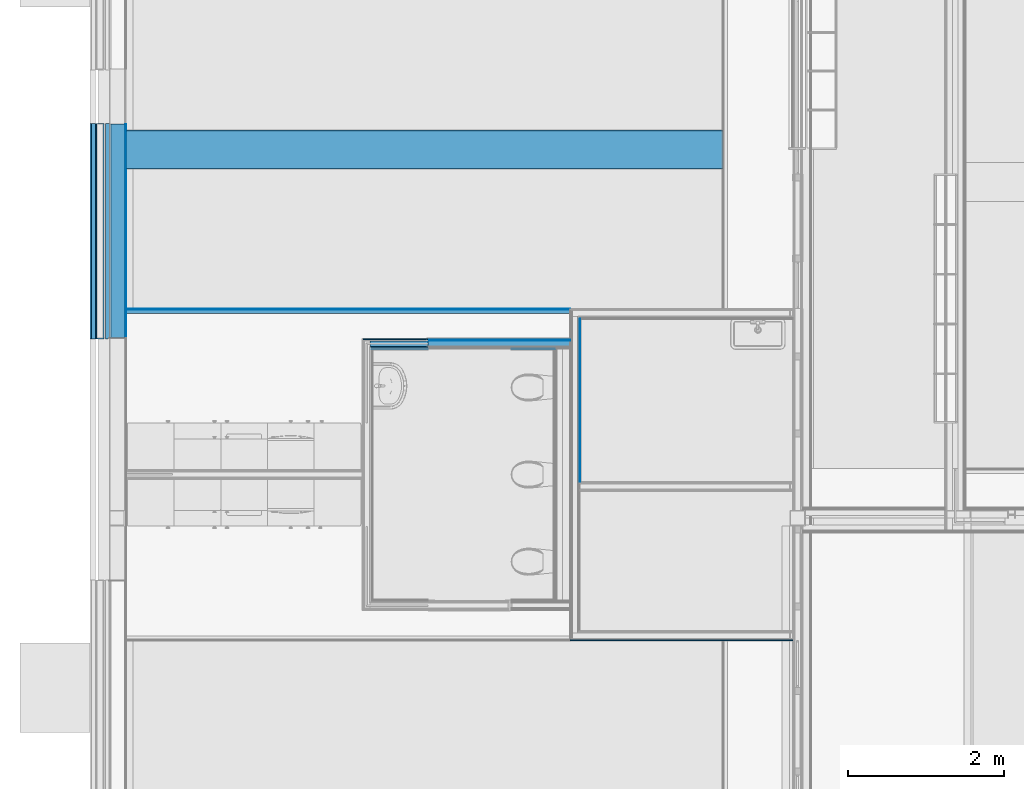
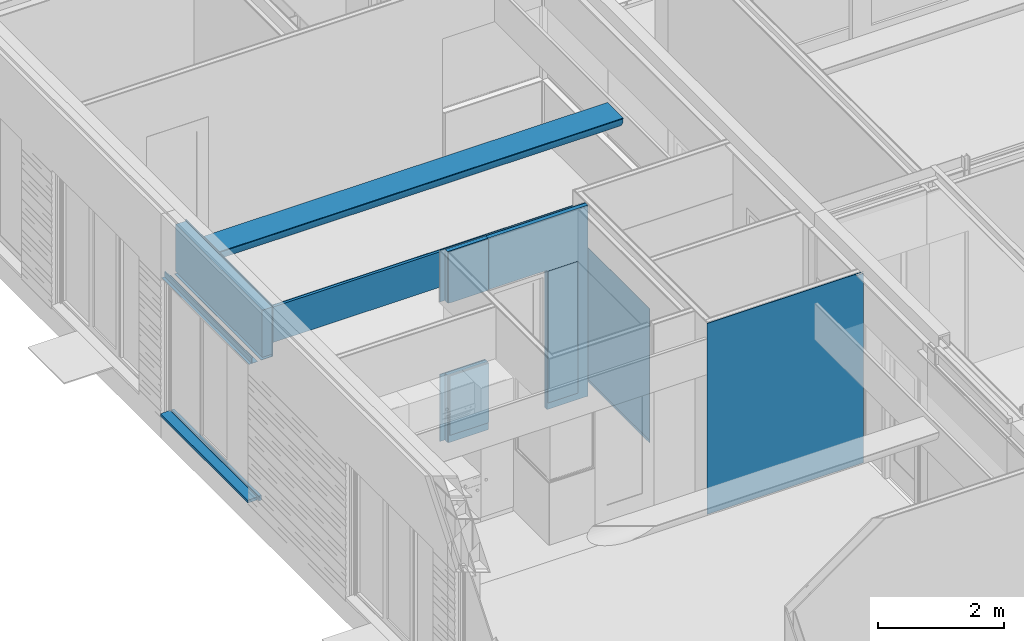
# One storey, part 55 of 165: 21 building element parts, 2 openings, 11 elements without a shape of their own.
"""IFC2X3 building model written with IfcOpenShell, lengths in millimetres."""

import ifcopenshell
import ifcopenshell.guid

model = None  # the IFC model being written
_history = None  # IfcOwnerHistory: only IFC2X3 demands one
_inside = {}  # id of a spatial element -> (the spatial element, [elements in it])
_under = {}  # id of a project, library or spatial element -> (it, [spatial elements below it])
_declared = {}  # id of a project -> (the project, [libraries it declares])
_typed = {}  # id of a type object -> (the type object, [elements of that type])
_made_of = {}  # id of a material, layer set ... -> (it, [elements and type objects made of it])


def new_model(schema):
    """Start an empty IFC model of exactly this schema.

    Asked for "IFC4X3", IfcOpenShell would pick the latest addendum, in which some entities
    have other attributes; the version numbers below select the first issue.
    IFC2X3 requires an IfcOwnerHistory on every rooted entity: one is made here for all.
    """
    global model, _history
    if schema == "IFC4X3":
        model = ifcopenshell.file(schema_version=(4, 3, 0, 0))
    else:
        model = ifcopenshell.file(schema=schema)
    _inside.clear()
    _under.clear()
    _declared.clear()
    _typed.clear()
    _made_of.clear()
    _history = None
    if model.schema == "IFC2X3":
        org = make("IfcOrganization", Name="unknown")
        user = make(
            "IfcPersonAndOrganization",
            ThePerson=make("IfcPerson", FamilyName="unknown"),
            TheOrganization=org,
        )
        app = make(
            "IfcApplication",
            ApplicationDeveloper=org,
            Version="unknown",
            ApplicationFullName="unknown",
            ApplicationIdentifier="unknown",
        )
        _history = make(
            "IfcOwnerHistory",
            OwningUser=user,
            OwningApplication=app,
            ChangeAction="ADDED",
            CreationDate=0,
        )
    return model


def make(cls, **values):
    """One entity of the class cls with the attributes given. An attribute that is None is left unset."""
    return model.create_entity(
        cls, **{name: value for name, value in values.items() if value is not None}
    )


def entity(cls, *values):
    """Any entity or typed value of the class cls, its attributes in the order of the schema. None: left unset."""
    e = model.create_entity(cls)
    for i, value in enumerate(values):
        if value is not None:
            e[i] = value
    return e


def rooted(cls, **values):
    """An entity with a GlobalId (a new one), such as an element, a storey or a relation."""
    return make(cls, GlobalId=ifcopenshell.guid.new(), OwnerHistory=_history, **values)


def si_unit(unit_type, name, prefix=None):
    """IfcSIUnit, for example si_unit("LENGTHUNIT", "METRE", prefix="MILLI")."""
    return make("IfcSIUnit", UnitType=unit_type, Prefix=prefix, Name=name)


def converted_unit(unit_type, name, factor, base, dimensions=None, offset=None):
    """IfcConversionBasedUnit, such as the inch: factor (a typed value) times the base unit."""
    return make(
        "IfcConversionBasedUnit"
        if offset is None
        else "IfcConversionBasedUnitWithOffset",
        ConversionOffset=offset,
        Dimensions=None
        if dimensions is None
        else entity("IfcDimensionalExponents", *dimensions),
        UnitType=unit_type,
        Name=name,
        ConversionFactor=make(
            "IfcMeasureWithUnit", ValueComponent=factor, UnitComponent=base
        ),
    )


def derived_unit(unit_type, elements):
    """IfcDerivedUnit: a product of units, each with its exponent."""
    return make(
        "IfcDerivedUnit",
        Elements=[
            make("IfcDerivedUnitElement", Unit=unit, Exponent=power)
            for unit, power in elements
        ],
        UnitType=unit_type,
    )


def money_unit(currency):
    """IfcMonetaryUnit."""
    return make("IfcMonetaryUnit", Currency=currency)


def assignment(units):
    """IfcUnitAssignment: the units of a project."""
    return None if units is None else make("IfcUnitAssignment", Units=units)


def point(xyz):
    """IfcCartesianPoint."""
    return None if xyz is None else make("IfcCartesianPoint", Coordinates=xyz)


def direction(xyz):
    """IfcDirection."""
    return None if xyz is None else make("IfcDirection", DirectionRatios=xyz)


def frame(location, z_axis=None, x_axis=None):
    """IfcAxis2Placement3D, a coordinate frame: its origin and axes. An axis left out is left unset."""
    return make(
        "IfcAxis2Placement3D",
        Location=point(location),
        Axis=direction(z_axis),
        RefDirection=direction(x_axis),
    )


def origin_with_axes():
    """The frame at (0, 0, 0) with the z axis (0, 0, 1) and the x axis (1, 0, 0) written out."""
    return frame((0.0, 0.0, 0.0), z_axis=(0.0, 0.0, 1.0), x_axis=(1.0, 0.0, 0.0))


def place(relative_to, where):
    """IfcLocalPlacement: puts the frame where relative to a parent placement (None: the world)."""
    return make(
        "IfcLocalPlacement", PlacementRelTo=relative_to, RelativePlacement=where
    )


def context(
    kind, dimensions, precision=None, world=None, true_north=None, identifier=None
):
    """IfcGeometricRepresentationContext, for example the 3D "Model" context."""
    return make(
        "IfcGeometricRepresentationContext",
        ContextIdentifier=identifier,
        ContextType=kind,
        CoordinateSpaceDimension=dimensions,
        Precision=precision,
        WorldCoordinateSystem=world,
        TrueNorth=true_north,
    )


def subcontext(parent, identifier, kind, view, scale=None):
    """IfcGeometricRepresentationSubContext, for example "Body" below "Model"."""
    return make(
        "IfcGeometricRepresentationSubContext",
        ContextIdentifier=identifier,
        ContextType=kind,
        ParentContext=parent,
        TargetScale=scale,
        TargetView=view,
    )


def project(units=None, contexts=None):
    """IfcProject with its units and contexts."""
    return rooted(
        "IfcProject",
        Name="project",
        RepresentationContexts=contexts,
        UnitsInContext=assignment(units),
    )


def spatial(cls, under=None, at=None, **own):
    """A site, building, storey or space (cls), placed at a placement, below another one or the project."""
    s = rooted(cls, ObjectPlacement=at, **own)
    if under is not None:
        _under.setdefault(under.id(), (under, []))[1].append(s)
    return s


def faces_of(points, faces, orient=None, outer=None):
    """IfcFace entities. A face is a list of loops; a loop is a list of indices into points, from 0.

    orient and outer hold one flag for each loop. By default every Orientation is true, the
    first loop of a face is its IfcFaceOuterBound and the others are IfcFaceBound.
    """
    made = []
    for i, loops in enumerate(faces):
        bounds = []
        for j, loop in enumerate(loops):
            is_outer = j == 0 if outer is None else outer[i][j]
            bounds.append(
                make(
                    "IfcFaceOuterBound" if is_outer else "IfcFaceBound",
                    Bound=make("IfcPolyLoop", Polygon=[points[k] for k in loop]),
                    Orientation=True if orient is None else orient[i][j],
                )
            )
        made.append(make("IfcFace", Bounds=bounds))
    return made


def faceted_brep(points, faces, orient=None, outer=None, voids=None):
    """IfcFacetedBrep: a solid bounded by flat faces; with voids (closed shells), ...WithVoids."""
    shared = [point(p) for p in points]
    hull = make("IfcClosedShell", CfsFaces=faces_of(shared, faces, orient, outer))
    if voids is None:
        return make("IfcFacetedBrep", Outer=hull)
    return make(
        "IfcFacetedBrepWithVoids",
        Outer=hull,
        Voids=[
            make(cls, CfsFaces=faces_of(shared, fs, o, b)) for cls, fs, o, b in voids
        ],
    )


def shape(context_of_items, identifier, shape_type, items):
    """IfcShapeRepresentation: the items that make up one representation, for example the "Body"."""
    return make(
        "IfcShapeRepresentation",
        ContextOfItems=context_of_items,
        RepresentationIdentifier=identifier,
        RepresentationType=shape_type,
        Items=items,
    )


def material(Name=None, Category=None):
    """IfcMaterial."""
    return make("IfcMaterial", Name=Name, Category=Category)


def made_of(thing, what):
    """Note that an element or type object is made of a material, layer set ...; save() writes the relation."""
    if what is not None:
        _made_of.setdefault(what.id(), (what, []))[1].append(thing)
    return thing


def type_object(cls, material=None, **own):
    """A type object (cls), such as IfcWallType, which elements share."""
    return made_of(rooted(cls, **own), material)


def element(
    cls,
    number,
    at=None,
    inside=None,
    cuts=None,
    type_object=None,
    material=None,
    context=None,
    identifier="Body",
    shape_type=None,
    held_by="IfcProductDefinitionShape",
    body=None,
    shapes=None,
    **own,
):
    """One element of the class cls, such as IfcWall. Its Tag is "e" and its number.

    at: its placement. inside: the storey or other place that contains it. cuts: it is an
    opening in that element (IfcRelVoidsElement). A single representation is given by context,
    identifier, shape_type and body (its items); several are given by shapes. held_by: the class
    of the entity that holds the representations. save() writes the other relations.
    """
    e = rooted(cls, Tag="e%d" % number, ObjectPlacement=at, **own)
    if body is not None:
        shapes = [shape(context, identifier, shape_type, body)]
    if shapes is not None:
        e.Representation = make(held_by, Representations=shapes)
    if inside is not None:
        _inside.setdefault(inside.id(), (inside, []))[1].append(e)
    if cuts is not None:
        rooted(
            "IfcRelVoidsElement", RelatingBuildingElement=cuts, RelatedOpeningElement=e
        )
    if type_object is not None:
        _typed.setdefault(type_object.id(), (type_object, []))[1].append(e)
    return made_of(e, material)


def aggregate(whole, parts):
    """IfcRelAggregates: a whole, such as a stair, and the parts it consists of."""
    return rooted("IfcRelAggregates", RelatingObject=whole, RelatedObjects=parts)


def save(model, path):
    """Write the relations noted so far, then the file.

    IfcRelAggregates (storeys below a building ...), IfcRelContainedInSpatialStructure (elements
    in a storey), IfcRelDefinesByType, IfcRelAssociatesMaterial and IfcRelDeclares: one each for
    every whole, place, type object, material and project.
    """
    for whole, parts in _under.values():
        aggregate(whole, parts)
    for where, things in _inside.values():
        rooted(
            "IfcRelContainedInSpatialStructure",
            RelatedElements=things,
            RelatingStructure=where,
        )
    for kind, things in _typed.values():
        rooted("IfcRelDefinesByType", RelatedObjects=things, RelatingType=kind)
    for what, things in _made_of.values():
        rooted("IfcRelAssociatesMaterial", RelatedObjects=things, RelatingMaterial=what)
    for by, libraries in _declared.values():
        rooted("IfcRelDeclares", RelatingContext=by, RelatedDefinitions=libraries)
    model.write(path)


model = new_model("IFC2X3")

# Units and contexts
model_context = context("Model", 3, precision=0.01, world=origin_with_axes(), true_north=direction((0.0, 1.0)))
body_context = subcontext(model_context, "Body", "Model", "MODEL_VIEW")
ifc_project = project(units=[si_unit("LENGTHUNIT", "METRE", prefix="MILLI"), si_unit("AREAUNIT", "SQUARE_METRE"), si_unit("VOLUMEUNIT", "CUBIC_METRE"), converted_unit("PLANEANGLEUNIT", "DEGREE", entity("IfcPlaneAngleMeasure", 0.0174532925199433), si_unit("PLANEANGLEUNIT", "RADIAN"), dimensions=[0, 0, 0, 0, 0, 0, 0]), money_unit("EUR"), converted_unit("TIMEUNIT", "Year", entity("IfcTimeMeasure", 31556926.0), si_unit("TIMEUNIT", "SECOND"), dimensions=[0, 0, 1, 0, 0, 0, 0]), si_unit("MASSUNIT", "GRAM", prefix="KILO"), si_unit("THERMODYNAMICTEMPERATUREUNIT", "DEGREE_CELSIUS"), si_unit("LUMINOUSINTENSITYUNIT", "LUMEN"), si_unit("ENERGYUNIT", "JOULE", prefix="MEGA"), derived_unit("THERMALCONDUCTANCEUNIT", [(si_unit("POWERUNIT", "WATT"), 1), (si_unit("LENGTHUNIT", "METRE"), -1), (si_unit("THERMODYNAMICTEMPERATUREUNIT", "KELVIN"), -1)]), derived_unit("SPECIFICHEATCAPACITYUNIT", [(si_unit("ENERGYUNIT", "JOULE"), 1), (si_unit("MASSUNIT", "GRAM", prefix="KILO"), -1), (si_unit("THERMODYNAMICTEMPERATUREUNIT", "KELVIN"), -1)]), derived_unit("MASSDENSITYUNIT", [(si_unit("MASSUNIT", "GRAM", prefix="KILO"), 1), (si_unit("VOLUMEUNIT", "CUBIC_METRE"), -1)])], contexts=[model_context])

# Site, building, storey
site_placement = place(None, origin_with_axes())
site = spatial("IfcSite", under=ifc_project, at=site_placement, Name="Site", CompositionType="ELEMENT")
building_placement = place(site_placement, origin_with_axes())
building = spatial("IfcBuilding", under=site, at=building_placement, Name="Naam gebouw", CompositionType="ELEMENT")
storey_placement = place(building_placement, origin_with_axes())
storey = spatial("IfcBuildingStorey", under=building, at=storey_placement, Name="Begane grond", CompositionType="ELEMENT", Elevation=0.0)

# Proxy, building element part
building_element_proxy_type_1 = type_object("IfcBuildingElementProxyType", Name="22 Metal stud 125 gips 125", PredefinedType="NOTDEFINED")
proxy_1_placement = place(storey_placement, frame((8850.000000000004, 9235.000198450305, -100.0), z_axis=(0.0, 0.0, 1.0), x_axis=(-0.9999999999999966, -8.284042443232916e-08, 0.0)))
proxy_1 = element("IfcBuildingElementProxy", 1, at=proxy_1_placement, inside=storey, type_object=building_element_proxy_type_1, Name="_Wand-x")
ifc_material_1 = material(Name="Gipsplaat")
building_element_part_1_placement = place(proxy_1_placement, origin_with_axes())
building_element_part_1 = element("IfcBuildingElementPart", 2, at=building_element_part_1_placement, material=ifc_material_1, Name="Gipsplaat", context=body_context, shape_type="Brep", body=[
    faceted_brep([(199.9999989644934, -12.50001656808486, 3695.0), (199.9999989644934, -12.50001656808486, 3670.0), (62.4999989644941, -12.50000517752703, 3670.0), (62.4999989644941, -12.50000517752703, 0.0), (2925.000401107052, -12.50024230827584, 0.0), (2925.000401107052, -12.50024230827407, 3700.0), (102.9999989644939, -12.50000853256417, 3700.0), (102.9999989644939, -12.50000853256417, 3695.0), (199.9999999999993, -1.656808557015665e-05, 3695.0), (199.9999999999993, -1.656808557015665e-05, 3670.0), (62.5, -5.177527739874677e-06, 3670.0), (62.5, -5.177527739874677e-06, 0.0), (2925.000402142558, -0.0002423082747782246, 0.0), (2925.000402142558, -0.0002423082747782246, 3700.0), (102.9999999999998, -8.532564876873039e-06, 3700.0), (102.9999999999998, -8.532564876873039e-06, 3695.0)], [[[0, 1, 2, 3, 4, 5, 6, 7]], [[1, 0, 8, 9]], [[10, 2, 1, 9]], [[2, 10, 11, 3]], [[12, 4, 3, 11]], [[13, 5, 4, 12]], [[14, 6, 5, 13]], [[7, 6, 14, 15]], [[0, 7, 15, 8]], [[15, 14, 13, 12, 11, 10, 9, 8]]]),
    faceted_brep([(62.5, -5.177527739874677e-06, 3695.0), (62.4999989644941, -12.50000517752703, 3695.0), (62.4999989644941, -12.50000517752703, 3700.0), (62.5, -5.177527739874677e-06, 3700.0), (94.99999896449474, -12.50000786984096, 3695.0), (95.00000000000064, -7.869841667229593e-06, 3695.0), (94.99999896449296, -12.50000786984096, 3700.0), (94.99999999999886, -7.869841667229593e-06, 3700.0)], [[[0, 1, 2, 3]], [[4, 1, 0, 5]], [[4, 6, 2, 1]], [[6, 7, 3, 2]], [[5, 0, 3, 7]], [[7, 6, 4, 5]]]),
])
aggregate(proxy_1, [building_element_part_1])

# Proxy, opening, building element parts
building_element_proxy_type_2 = type_object("IfcBuildingElementProxyType", Name="22 Metal stud 125 oregon pine 125", PredefinedType="NOTDEFINED")
proxy_2_placement = place(storey_placement, frame((5924.999489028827, 13115.00027460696, -100.0), z_axis=(0.0, 0.0, 1.0), x_axis=(-0.9999999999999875, 1.582717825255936e-07, 0.0)))
proxy_2 = element("IfcBuildingElementProxy", 3, at=proxy_2_placement, inside=storey, type_object=building_element_proxy_type_2, Name="_Wand-x")
opening_1_placement = place(proxy_2_placement, frame((1289.999871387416, 0.0, 100.0), z_axis=(0.0, 0.0, 1.0), x_axis=(1.0, 0.0, 0.0)))
element("IfcOpeningElement", 4, at=opening_1_placement, cuts=proxy_2, Name="_01.02", context=body_context, shape_type="Brep", body=[
    faceted_brep([(540.0000000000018, 126.0002896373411, 2600.0), (540.0000000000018, 126.0002896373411, -100.0000000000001), (-539.9999999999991, 126.0002896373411, -100.0000000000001), (-539.9999999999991, 126.0002896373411, 2600.0), (540.0000000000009, -1.000289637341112, 2600.0), (540.0000000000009, -1.000289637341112, -100.0000000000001), (-539.9999999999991, -1.000289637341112, -100.0000000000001), (-539.9999999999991, -1.000289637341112, 2600.0)], [[[0, 1, 2, 3]], [[4, 5, 1, 0]], [[5, 6, 2, 1]], [[6, 7, 3, 2]], [[7, 4, 0, 3]], [[6, 5, 4, 7]]]),
])
building_element_part_2_placement = place(proxy_2_placement, origin_with_axes())
building_element_part_2 = element("IfcBuildingElementPart", 5, at=building_element_part_2_placement, material=ifc_material_1, Name="Gipsplaat", context=body_context, shape_type="Brep", body=[
    faceted_brep([(749.9998713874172, 12.49999999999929, 2700.0), (1829.999871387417, 12.49999999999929, 2700.0), (1829.999871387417, 12.49999999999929, 3700.0), (-0.0001108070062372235, 12.49999999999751, 3700.0), (-0.0001108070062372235, 12.49999999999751, 0.0), (749.9998713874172, 12.49999999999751, 0.0), (749.9998713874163, 24.99999999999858, 2700.0), (1829.999871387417, 24.99999999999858, 2700.0), (1829.999871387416, 24.99999999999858, 3700.0), (-0.0001127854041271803, 24.9999999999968, 3700.0), (-0.0001127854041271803, 24.9999999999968, 0.0), (749.9998713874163, 24.9999999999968, 0.0)], [[[0, 1, 2, 3, 4, 5]], [[1, 0, 6, 7]], [[1, 7, 8, 2]], [[8, 9, 3, 2]], [[4, 3, 9, 10]], [[11, 5, 4, 10]], [[0, 5, 11, 6]], [[6, 11, 10, 9, 8, 7]]]),
])
ifc_material_2 = material(Name="ALG - LICHTE SCHEIDINGSWAND")
building_element_part_3_placement = place(proxy_2_placement, origin_with_axes())
building_element_part_3 = element("IfcBuildingElementPart", 6, at=building_element_part_3_placement, material=ifc_material_2, Name="ALG - LICHTE SCHEIDINGSWAND", context=body_context, shape_type="Brep", body=[
    faceted_brep([(749.9998713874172, 24.9999999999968, 2700.0), (1829.999871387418, 24.99999999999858, 2700.0), (1829.999871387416, 24.99999999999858, 3700.0), (-0.0001127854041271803, 24.9999999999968, 3700.0), (-0.0001127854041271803, 24.9999999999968, 0.0), (749.9998713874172, 24.9999999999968, 0.0), (749.9998713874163, 99.99999999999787, 2700.0), (1829.999871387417, 99.99999999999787, 2700.0), (1829.999871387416, 99.99999999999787, 3700.0), (-0.0001246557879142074, 99.99999999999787, 3700.0), (-0.0001246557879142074, 99.99999999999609, 0.0), (749.9998713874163, 99.99999999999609, 0.0)], [[[0, 1, 2, 3, 4, 5]], [[1, 0, 6, 7]], [[1, 7, 8, 2]], [[8, 9, 3, 2]], [[4, 3, 9, 10]], [[11, 5, 4, 10]], [[0, 5, 11, 6]], [[6, 11, 10, 9, 8, 7]]]),
])
aggregate(proxy_2, [building_element_part_2, building_element_part_3])

# Beam, building element parts
beam_type_1 = type_object("IfcBeamType", Name="41 Latei/geveldrager 158 x 112", PredefinedType="BEAM")
beam_1_placement = place(storey_placement, frame((-180.0000861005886, 13114.99981122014, 2610.0), z_axis=(0.0, 0.0, 1.0), x_axis=(1.0, 0.0, 0.0)))
beam_1 = element("IfcBeam", 7, at=beam_1_placement, inside=storey, type_object=beam_type_1, Name="_Regenwaterafvoer-x", ObjectType="BEAM")
ifc_material_3 = material(Name="Metaal - Staal C")
building_element_part_4_placement = place(beam_1_placement, origin_with_axes())
building_element_part_4 = element("IfcBuildingElementPart", 8, at=building_element_part_4_placement, material=ifc_material_3, Name="Metaal - Staal C", context=body_context, shape_type="Brep", body=[
    faceted_brep([(3.000000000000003, 2770.0, -3.000000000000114), (108.0, 2770.0, -3.000000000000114), (108.0, 0.0, -3.000000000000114), (3.000000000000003, 0.0, -3.000000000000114), (3.000000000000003, 2770.0, 0.0), (108.0, 2770.0, 0.0), (108.0, 0.0, 0.0), (3.000000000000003, 0.0, 0.0)], [[[0, 1, 2, 3]], [[0, 4, 5, 1]], [[1, 5, 6, 2]], [[3, 2, 6, 7]], [[4, 0, 3, 7]], [[5, 4, 7, 6]]]),
])
building_element_part_5_placement = place(beam_1_placement, origin_with_axes())
building_element_part_5 = element("IfcBuildingElementPart", 9, at=building_element_part_5_placement, material=ifc_material_3, Name="Metaal - Staal C", context=body_context, shape_type="Brep", body=[
    faceted_brep([(-49.99999999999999, 2770.0, 6.55651533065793e-07), (-49.99999999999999, 2770.0, -3.000000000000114), (-49.99999999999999, 0.0, -3.000000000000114), (-49.99999999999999, 0.0, 6.55651533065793e-07), (-5.960468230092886e-08, 2770.0, 6.55651533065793e-07), (-5.960468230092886e-08, 2770.0, 99.3417707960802), (16.54654975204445, 2770.0, 108.894926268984), (18.04655007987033, 2770.0, 106.296849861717), (3.000000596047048, 2770.0, 96.99999988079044), (3.000000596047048, 2770.0, 6.55651533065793e-07), (3.000000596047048, 2770.0, -3.000000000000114), (3.000000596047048, 0.0, -3.000000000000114), (3.000000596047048, 0.0, 6.55651533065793e-07), (3.000000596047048, 0.0, 96.99999988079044), (18.04655007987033, 0.0, 106.296849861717), (16.54654975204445, 0.0, 108.894926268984), (-5.960468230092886e-08, 0.0, 99.3417707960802), (-5.960468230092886e-08, 0.0, 6.55651533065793e-07)], [[[0, 1, 2, 3]], [[0, 4, 5, 6, 7, 8, 9, 10, 1]], [[1, 10, 11, 2]], [[3, 2, 11, 12, 13, 14, 15, 16, 17]], [[4, 0, 3, 17]], [[5, 4, 17, 16]], [[6, 5, 16, 15]], [[7, 6, 15, 14]], [[8, 7, 14, 13]], [[9, 8, 13, 12]], [[10, 9, 12, 11]]]),
])
aggregate(beam_1, [building_element_part_4, building_element_part_5])

beam_type_2 = type_object("IfcBeamType", Name="31 Betondorpel 250 x 90", PredefinedType="BEAM")
beam_2_placement = place(storey_placement, frame((-249.999999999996, 13114.9998112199, -100.0000000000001), z_axis=(0.0, 0.0, 1.0), x_axis=(1.0, 0.0, 0.0)))
beam_2 = element("IfcBeam", 10, at=beam_2_placement, inside=storey, type_object=beam_type_2, Name="_Regenwaterafvoer-x", ObjectType="BEAM")
ifc_material_4 = material(Name="Isolatie - Kunststof hard")
building_element_part_6_placement = place(beam_2_placement, origin_with_axes())
building_element_part_6 = element("IfcBuildingElementPart", 11, at=building_element_part_6_placement, material=ifc_material_4, Name="Isolatie - Kunststof hard", context=body_context, shape_type="Brep", body=[
    faceted_brep([(200.0, 2770.0, 0.0), (250.0, 2770.0, 0.0), (250.0, 0.0, 0.0), (200.0, 0.0, 0.0), (200.0, 2770.0, 30.04212815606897), (200.0, 2770.0, 90.00000000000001), (250.0, 2770.0, 90.00000000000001), (250.0, 0.0, 90.00000000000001), (200.0, 0.0, 90.00000000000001), (200.0, 0.0, 30.04212815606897)], [[[0, 1, 2, 3]], [[0, 4, 5, 6, 1]], [[1, 6, 7, 2]], [[3, 2, 7, 8, 9]], [[4, 0, 3, 9]], [[5, 4, 9, 8]], [[6, 5, 8, 7]]]),
])
ifc_material_5 = material(Name="Beton gewapend prefab")
building_element_part_7_placement = place(beam_2_placement, origin_with_axes())
building_element_part_7 = element("IfcBuildingElementPart", 12, at=building_element_part_7_placement, material=ifc_material_5, Name="Beton gewapend prefab", context=body_context, shape_type="Brep", body=[
    faceted_brep([(0.0, 2770.0, 30.04212834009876), (170.0, 2770.0, 30.04212834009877), (170.0, 0.0, 30.04212834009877), (0.0, 0.0, 30.04212834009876), (0.0, 2770.0, 80.04212834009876), (170.0, 2770.0, 90.04212834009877), (170.0, 2770.0, 90.00000000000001), (170.0, 0.0, 90.00000000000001), (170.0, 0.0, 90.04212834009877), (0.0, 0.0, 80.04212834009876)], [[[0, 1, 2, 3]], [[0, 4, 5, 6, 1]], [[1, 6, 7, 2]], [[3, 2, 7, 8, 9]], [[4, 0, 3, 9]], [[5, 4, 9, 8]], [[6, 5, 8, 7]]]),
])
aggregate(beam_2, [building_element_part_6, building_element_part_7])

# Proxy, building element parts
building_element_proxy_type_3 = type_object("IfcBuildingElementProxyType", Name="22 Metal stud 62.5 plafond 63", PredefinedType="NOTDEFINED")
proxy_3_placement = place(storey_placement, frame((5924.999597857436, 13505.00027460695, 2600.0), z_axis=(0.0, 0.0, 1.0), x_axis=(-1.0, 0.0, 0.0)))
proxy_3 = element("IfcBuildingElementProxy", 13, at=proxy_3_placement, inside=storey, type_object=building_element_proxy_type_3, Name="_Wand-x")
building_element_part_8_placement = place(proxy_3_placement, origin_with_axes())
building_element_part_8 = element("IfcBuildingElementPart", 14, at=building_element_part_8_placement, material=ifc_material_2, Name="ALG - LICHTE SCHEIDINGSWAND", context=body_context, shape_type="Brep", body=[
    faceted_brep([(0.0001335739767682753, 62.49999999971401, 12.00000000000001), (2.671479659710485e-05, 12.49999999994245, 12.00000000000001), (0.0, 12.49999999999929, 699.9999999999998), (0.0, 62.5, 699.9999999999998), (5710.999624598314, 12.49999999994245, 12.00000000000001), (5710.999731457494, 62.49999999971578, 12.00000000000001), (5710.999597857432, 12.49999999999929, 699.9999999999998), (5710.999597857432, 62.5, 699.9999999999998)], [[[0, 1, 2, 3]], [[4, 1, 0, 5]], [[1, 4, 6, 2]], [[2, 6, 7, 3]], [[5, 0, 3, 7]], [[4, 5, 7, 6]]]),
])
building_element_part_9_placement = place(proxy_3_placement, origin_with_axes())
building_element_part_9 = element("IfcBuildingElementPart", 15, at=building_element_part_9_placement, material=ifc_material_1, Name="Gipsplaat", context=body_context, shape_type="Brep", body=[
    faceted_brep([(2.671479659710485e-05, 12.49999999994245, 12.00000000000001), (0.0, 0.0, 12.00000000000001), (0.0, 0.0, 699.9999999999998), (0.0, 12.49999999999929, 699.9999999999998), (5710.99959788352, 0.0, 12.00000000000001), (5710.999624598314, 12.49999999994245, 12.00000000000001), (5710.999597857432, 0.0, 699.9999999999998), (5710.999597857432, 12.49999999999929, 699.9999999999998)], [[[0, 1, 2, 3]], [[4, 1, 0, 5]], [[1, 4, 6, 2]], [[2, 6, 7, 3]], [[5, 0, 3, 7]], [[4, 5, 7, 6]]]),
])
aggregate(proxy_3, [building_element_part_8, building_element_part_9])

# Proxy, building element part
building_element_proxy_type_4 = type_object("IfcBuildingElementProxyType", Name="42 Tegelwerk 2600+ 12 x 2600", PredefinedType="NOTDEFINED")
proxy_4_placement = place(storey_placement, frame((5174.99959469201, 12970.00039331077, 0.0), z_axis=(0.0, 0.0, 1.0), x_axis=(0.9999999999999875, -1.58271783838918e-07, 0.0)))
proxy_4 = element("IfcBuildingElementProxy", 16, at=proxy_4_placement, inside=storey, type_object=building_element_proxy_type_4, Name="_Wand-x")
ifc_material_6 = material(Name="21 STO lijmlaag")
building_element_part_10_placement = place(proxy_4_placement, origin_with_axes())
building_element_part_10 = element("IfcBuildingElementPart", 17, at=building_element_part_10_placement, material=ifc_material_6, Name="21 STO lijmlaag", context=body_context, shape_type="Brep", body=[
    faceted_brep([(549.9840933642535, 13.00000447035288, 2600.0), (549.9840933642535, 19.9999955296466, 2600.0), (0.0, 19.9999955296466, 2600.0), (0.0, 13.00000447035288, 2600.0), (549.9840933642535, 19.9999955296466, 50.00000596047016), (549.9840933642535, 13.00000447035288, 50.00000596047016), (549.9840933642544, 14.99999850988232, 50.00000596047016), (0.0, 19.9999955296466, 50.00000000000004), (0.0, 13.00000447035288, 50.00000000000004), (0.0, 14.99999850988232, 50.00000596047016)], [[[0, 1, 2, 3]], [[4, 1, 0, 5, 6]], [[1, 4, 7, 2]], [[8, 3, 2, 7, 9]], [[5, 0, 3, 8]], [[6, 5, 8, 9]], [[4, 6, 9, 7]]]),
])
aggregate(proxy_4, [building_element_part_10])

building_element_proxy_type_5 = type_object("IfcBuildingElementProxyType", Name="42 Tegelwerk 1200+ 12 x 1200", PredefinedType="NOTDEFINED")
proxy_5_placement = place(storey_placement, frame((4094.999594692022, 12970.0005642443, 0.0), z_axis=(0.0, 0.0, 1.0), x_axis=(-0.9999999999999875, 1.582717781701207e-07, 0.0)))
proxy_5 = element("IfcBuildingElementProxy", 18, at=proxy_5_placement, inside=storey, type_object=building_element_proxy_type_5, Name="_Wand-x")
building_element_part_11_placement = place(proxy_5_placement, origin_with_axes())
building_element_part_11 = element("IfcBuildingElementPart", 19, at=building_element_part_11_placement, material=ifc_material_6, Name="21 STO lijmlaag", context=body_context, shape_type="Brep", body=[
    faceted_brep([(720.0000925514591, -20.00000447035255, 50.00000000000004), (720.0001014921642, -20.00000447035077, 1200.0), (0.0, -20.00000447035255, 1200.0), (0.0, -20.00000447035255, 50.00000000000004), (720.0001323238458, -12.99999329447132, 1200.0), (720.0001145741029, -14.99999329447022, 50.00000000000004), (720.0001233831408, -12.99999329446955, 50.00000000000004), (0.0, -12.99999329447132, 1200.0), (0.0, -12.99999329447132, 50.00000000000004), (0.0, -14.99999329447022, 50.00000000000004)], [[[0, 1, 2, 3]], [[4, 1, 0, 5, 6]], [[1, 4, 7, 2]], [[7, 8, 9, 3, 2]], [[5, 0, 3, 9]], [[6, 5, 9, 8]], [[4, 6, 8, 7]]]),
])
aggregate(proxy_5, [building_element_part_11])

# Proxy, opening, building element parts
proxy_6_placement = place(storey_placement, frame((4094.999617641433, 13115.0005642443, -100.0), z_axis=(0.0, 0.0, 1.0), x_axis=(-0.9999999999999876, 1.582717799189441e-07, 0.0)))
proxy_6 = element("IfcBuildingElementProxy", 20, at=proxy_6_placement, inside=storey, type_object=building_element_proxy_type_1, Name="_Wand-x")
opening_2_placement = place(proxy_6_placement, frame((387.4997698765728, 0.0, 1300.0), z_axis=(0.0, 0.0, 1.0), x_axis=(1.0, 0.0, 0.0)))
element("IfcOpeningElement", 21, at=opening_2_placement, cuts=proxy_6, Name="_C.04", context=body_context, shape_type="Brep", body=[
    faceted_brep([(407.499990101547, 50.00000000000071, 1400.0), (-387.4997698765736, 50.00000000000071, 1400.0), (-387.4997698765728, -1.000133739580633, 1400.0), (457.4997698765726, -1.000133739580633, 1400.0), (457.4997698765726, -4.813927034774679e-10, 1400.0), (331.5001911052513, 126.0001337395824, 1400.0), (-387.4997698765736, 126.0001337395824, 1400.0), (-387.4997698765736, 50.00000000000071, 0.0), (-387.4997698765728, -1.000133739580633, 0.0), (457.4997698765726, -1.000133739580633, 0.0), (457.4997698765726, -4.813927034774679e-10, 0.0), (407.499990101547, 50.00000000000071, 0.0), (331.5001911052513, 126.0001337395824, 0.0), (-387.4997698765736, 126.0001337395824, 0.0)], [[[0, 1, 2, 3, 4]], [[1, 0, 5, 6]], [[1, 7, 8, 2]], [[2, 8, 9, 3]], [[4, 3, 9, 10]], [[4, 10, 11, 12, 5, 0]], [[12, 13, 6, 5]], [[7, 1, 6, 13]], [[7, 11, 10, 9, 8]], [[11, 7, 13, 12]]]),
])
building_element_part_12_placement = place(proxy_6_placement, origin_with_axes())
building_element_part_12 = element("IfcBuildingElementPart", 22, at=building_element_part_12_placement, material=ifc_material_2, Name="ALG - LICHTE SCHEIDINGSWAND", context=body_context, shape_type="Brep", body=[
    faceted_brep([(744.9996498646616, 25.00000000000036, 1300.0), (0.0, 25.00000000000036, 1300.0), (0.0, 25.00000000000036, 0.0), (744.9996498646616, 25.00000000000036, 0.0), (0.0, 50.00000000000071, 1300.0), (744.9997599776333, 50.00000000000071, 1300.0), (0.0, 99.99999999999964, 1300.0), (0.0, 99.99999999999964, 0.0), (744.9999802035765, 99.99999999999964, 0.0), (744.9999802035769, 100.0000000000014, 1300.0)], [[[0, 1, 2, 3]], [[4, 1, 0, 5]], [[4, 6, 7, 2, 1]], [[8, 3, 2, 7]], [[5, 0, 3, 8, 9]], [[6, 4, 5, 9]], [[6, 9, 8, 7]]]),
    faceted_brep([(0.0, 100.0000000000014, 2700.0), (0.0, 50.00000000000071, 2700.0), (0.0, 25.00000000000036, 2700.0), (0.0, 25.00000000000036, 3700.0), (0.0, 100.0000000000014, 3700.0), (744.9999802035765, 100.0000000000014, 2700.0), (744.9997599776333, 50.00000000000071, 2700.0), (744.9996498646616, 25.00000000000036, 2700.0), (744.9996498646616, 25.00000000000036, 3700.0), (744.9999802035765, 100.0000000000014, 3700.0)], [[[0, 1, 2, 3, 4]], [[1, 0, 5, 6]], [[7, 2, 1, 6]], [[2, 7, 8, 3]], [[8, 9, 4, 3]], [[5, 0, 4, 9]], [[6, 5, 9, 8, 7]]]),
])
building_element_part_13_placement = place(proxy_6_placement, origin_with_axes())
building_element_part_13 = element("IfcBuildingElementPart", 23, at=building_element_part_13_placement, material=ifc_material_1, Name="Gipsplaat", context=body_context, shape_type="Brep", body=[
    faceted_brep([(732.4999802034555, 100.0000000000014, 1300.0), (0.0, 99.99999999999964, 1300.0), (0.0, 99.99999999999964, 0.0), (732.4999802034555, 100.0000000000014, 0.0), (0.0, 112.5000000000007, 1300.0), (732.5000352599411, 112.5000000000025, 1300.0), (0.0, 112.5000000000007, 0.0), (732.5000352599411, 112.5000000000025, 0.0)], [[[0, 1, 2, 3]], [[4, 1, 0, 5]], [[1, 4, 6, 2]], [[7, 3, 2, 6]], [[5, 0, 3, 7]], [[4, 5, 7, 6]]]),
    faceted_brep([(0.0, 112.5000000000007, 2700.0), (0.0, 100.0000000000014, 2700.0), (0.0, 100.0000000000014, 3700.0), (0.0, 112.5000000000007, 3700.0), (732.4999802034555, 100.0000000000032, 2700.0), (732.5000352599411, 112.5000000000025, 2700.0), (732.4999802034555, 100.0000000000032, 3700.0), (732.5000352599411, 112.5000000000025, 3700.0)], [[[0, 1, 2, 3]], [[4, 1, 0, 5]], [[1, 4, 6, 2]], [[6, 7, 3, 2]], [[5, 0, 3, 7]], [[4, 5, 7, 6]]]),
])
building_element_part_14_placement = place(proxy_6_placement, origin_with_axes())
building_element_part_14 = element("IfcBuildingElementPart", 24, at=building_element_part_14_placement, material=ifc_material_1, Name="Gipsplaat", context=body_context, shape_type="Brep", body=[
    faceted_brep([(832.499539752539, 0.0, 1300.0), (0.0, 0.0, 1300.0), (0.0, 0.0, 0.0), (832.499539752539, 0.0, 0.0), (0.0, 12.49999999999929, 1300.0), (832.4995948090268, 12.50000000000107, 1300.0), (0.0, 12.49999999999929, 0.0), (832.4995948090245, 12.49999999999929, 0.0)], [[[0, 1, 2, 3]], [[4, 1, 0, 5]], [[1, 4, 6, 2]], [[7, 3, 2, 6]], [[5, 0, 3, 7]], [[4, 5, 7, 6]]]),
    faceted_brep([(0.0, 12.49999999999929, 2700.0), (0.0, 0.0, 2700.0), (0.0, 0.0, 3700.0), (0.0, 12.49999999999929, 3700.0), (832.499539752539, 0.0, 2700.0), (832.4995948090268, 12.50000000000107, 2700.0), (832.499539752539, 0.0, 3700.0), (832.4995948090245, 12.49999999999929, 3700.0)], [[[0, 1, 2, 3]], [[4, 1, 0, 5]], [[1, 4, 6, 2]], [[6, 7, 3, 2]], [[5, 0, 3, 7]], [[4, 5, 7, 6]]]),
])
aggregate(proxy_6, [building_element_part_12, building_element_part_13, building_element_part_14])

# Beam, building element parts
beam_type_3 = type_object("IfcBeamType", Name="Luchtzakken 500mm 500 x 265", PredefinedType="BEAM")
beam_3_placement = place(storey_placement, frame((214.0000000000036, 15547.50023396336, 3200.0), z_axis=(0.0, 0.0, 1.0), x_axis=(0.0, -1.0, 0.0)))
beam_3 = element("IfcBeam", 25, at=beam_3_placement, inside=storey, type_object=beam_type_3, Name="_Regenwaterafvoer-x", ObjectType="BEAM")
ifc_material_7 = material(Name="ALG - ALGEMEEN")
building_element_part_15_placement = place(beam_3_placement, origin_with_axes())
building_element_part_15 = element("IfcBuildingElementPart", 26, at=building_element_part_15_placement, material=ifc_material_7, Name="ALG - ALGEMEEN", context=body_context, shape_type="Brep", body=[
    faceted_brep([(250.0, 7673.500000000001, 0.0), (250.0, 7673.500000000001, 15.00000000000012), (250.0, 0.0, 15.00000000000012), (250.0, 0.0, 0.0), (240.0000000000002, 7673.500000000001, 0.0), (-240.0000000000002, 7673.500000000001, 0.0), (-250.0, 7673.500000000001, 0.0), (-250.0, 7673.500000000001, 15.00000000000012), (-250.0, 0.0, 15.00000000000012), (-250.0, 0.0, 0.0), (-240.0000000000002, 0.0, 0.0), (240.0000000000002, 0.0, 0.0)], [[[0, 1, 2, 3]], [[0, 4, 5, 6, 7, 1]], [[1, 7, 8, 2]], [[3, 2, 8, 9, 10, 11]], [[4, 0, 3, 11]], [[5, 4, 11, 10]], [[6, 5, 10, 9]], [[7, 6, 9, 8]]]),
])
building_element_part_16_placement = place(beam_3_placement, origin_with_axes())
building_element_part_16 = element("IfcBuildingElementPart", 27, at=building_element_part_16_placement, material=ifc_material_7, Name="ALG - ALGEMEEN", context=body_context, shape_type="Brep", body=[
    faceted_brep([(-250.0, 7673.500000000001, 0.0), (-246.2019382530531, 7673.500000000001, -43.41204441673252), (-246.2019382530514, 0.0, -43.41204441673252), (-250.0, 0.0, 0.0), (-240.0000000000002, 7673.500000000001, 0.0), (-236.3538607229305, 7673.500000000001, -41.67556264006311), (-225.5262289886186, 7673.500000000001, -82.08483439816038), (-207.8460969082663, 7673.500000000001, -120.0000000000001), (-183.8506663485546, 7673.500000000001, -154.2690263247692), (-154.2690263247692, 7673.500000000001, -183.8506663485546), (-120.000000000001, 7673.500000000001, -207.8460969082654), (-82.08483439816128, 7673.500000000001, -225.5262289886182), (-41.675562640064, 7673.500000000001, -236.3538607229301), (0.0, 7673.500000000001, -240.0000000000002), (41.67556264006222, 7673.500000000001, -236.3538607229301), (82.0848343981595, 7673.500000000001, -225.5262289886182), (119.9999999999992, 7673.500000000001, -207.8460969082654), (154.2690263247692, 7673.500000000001, -183.8506663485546), (183.8506663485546, 7673.500000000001, -154.2690263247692), (207.8460969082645, 7673.500000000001, -120.0000000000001), (225.5262289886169, 7673.500000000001, -82.08483439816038), (236.3538607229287, 7673.500000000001, -41.67556264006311), (240.0000000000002, 7673.500000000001, 0.0), (250.0, 7673.500000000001, 0.0), (246.2019382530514, 7673.500000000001, -43.41204441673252), (234.9231551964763, 7673.500000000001, -85.50503583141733), (216.5063509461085, 7673.500000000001, -125.0), (191.5111107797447, 7673.500000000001, -160.6969024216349), (160.696902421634, 7673.500000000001, -191.5111107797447), (125.0, 7673.500000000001, -216.5063509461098), (85.50503583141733, 7673.500000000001, -234.9231551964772), (43.41204441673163, 7673.500000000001, -246.2019382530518), (0.0, 7673.500000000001, -250.0), (-43.41204441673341, 7673.500000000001, -246.2019382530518), (-85.50503583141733, 7673.500000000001, -234.9231551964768), (-125.0, 7673.500000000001, -216.5063509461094), (-160.6969024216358, 7673.500000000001, -191.5111107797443), (-191.5111107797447, 7673.500000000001, -160.6969024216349), (-216.5063509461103, 7673.500000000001, -125.0), (-234.9231551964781, 7673.500000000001, -85.50503583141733), (-234.9231551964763, 0.0, -85.50503583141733), (-216.5063509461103, 0.0, -125.0), (-191.5111107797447, 0.0, -160.6969024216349), (-160.696902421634, 0.0, -191.5111107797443), (-125.0, 0.0, -216.5063509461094), (-85.50503583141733, 0.0, -234.9231551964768), (-43.41204441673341, 0.0, -246.2019382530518), (0.0, 0.0, -250.0), (43.41204441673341, 0.0, -246.2019382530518), (85.50503583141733, 0.0, -234.9231551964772), (125.0, 0.0, -216.5063509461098), (160.696902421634, 0.0, -191.5111107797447), (191.5111107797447, 0.0, -160.6969024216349), (216.5063509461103, 0.0, -125.0), (234.9231551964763, 0.0, -85.50503583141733), (246.2019382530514, 0.0, -43.41204441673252), (250.0, 0.0, 0.0), (240.0000000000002, 0.0, 0.0), (236.3538607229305, 0.0, -41.67556264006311), (225.5262289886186, 0.0, -82.08483439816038), (207.8460969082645, 0.0, -120.0000000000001), (183.8506663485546, 0.0, -154.2690263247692), (154.2690263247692, 0.0, -183.8506663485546), (119.9999999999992, 0.0, -207.8460969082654), (82.08483439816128, 0.0, -225.5262289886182), (41.675562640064, 0.0, -236.3538607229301), (0.0, 0.0, -240.0000000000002), (-41.675562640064, 0.0, -236.3538607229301), (-82.08483439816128, 0.0, -225.5262289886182), (-119.9999999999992, 0.0, -207.8460969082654), (-154.2690263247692, 0.0, -183.8506663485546), (-183.8506663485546, 0.0, -154.2690263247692), (-207.8460969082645, 0.0, -120.0000000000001), (-225.5262289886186, 0.0, -82.08483439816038), (-236.3538607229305, 0.0, -41.67556264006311), (-240.0000000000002, 0.0, 0.0)], [[[0, 1, 2, 3]], [[0, 4, 5, 6, 7, 8, 9, 10, 11, 12, 13, 14, 15, 16, 17, 18, 19, 20, 21, 22, 23, 24, 25, 26, 27, 28, 29, 30, 31, 32, 33, 34, 35, 36, 37, 38, 39, 1]], [[1, 39, 40, 2]], [[3, 2, 40, 41, 42, 43, 44, 45, 46, 47, 48, 49, 50, 51, 52, 53, 54, 55, 56, 57, 58, 59, 60, 61, 62, 63, 64, 65, 66, 67, 68, 69, 70, 71, 72, 73, 74, 75]], [[4, 0, 3, 75]], [[5, 4, 75, 74]], [[6, 5, 74, 73]], [[7, 6, 73, 72]], [[8, 7, 72, 71]], [[9, 8, 71, 70]], [[10, 9, 70, 69]], [[11, 10, 69, 68]], [[12, 11, 68, 67]], [[13, 12, 67, 66]], [[14, 13, 66, 65]], [[15, 14, 65, 64]], [[16, 15, 64, 63]], [[17, 16, 63, 62]], [[18, 17, 62, 61]], [[19, 18, 61, 60]], [[20, 19, 60, 59]], [[21, 20, 59, 58]], [[22, 21, 58, 57]], [[23, 22, 57, 56]], [[24, 23, 56, 55]], [[25, 24, 55, 54]], [[26, 25, 54, 53]], [[27, 26, 53, 52]], [[28, 27, 52, 51]], [[29, 28, 51, 50]], [[30, 29, 50, 49]], [[31, 30, 49, 48]], [[32, 31, 48, 47]], [[33, 32, 47, 46]], [[34, 33, 46, 45]], [[35, 34, 45, 44]], [[36, 35, 44, 43]], [[37, 36, 43, 42]], [[38, 37, 42, 41]], [[39, 38, 41, 40]]]),
])
aggregate(beam_3, [building_element_part_15, building_element_part_16])

beam_type_4 = type_object("IfcBeamType", Name="31 HSB boven kozijnen 214 x 1000", PredefinedType="BEAM")
beam_4_placement = place(storey_placement, frame((213.9999999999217, 15874.9998112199, 2600.000000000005), z_axis=(0.0, 0.0, 1.0), x_axis=(-1.0, 0.0, 0.0)))
beam_4 = element("IfcBeam", 28, at=beam_4_placement, inside=storey, type_object=beam_type_4, Name="28_Balk-x", ObjectType="BEAM")
building_element_part_17_placement = place(beam_4_placement, origin_with_axes())
building_element_part_17 = element("IfcBuildingElementPart", 29, at=building_element_part_17_placement, material=ifc_material_1, Name="Gipsplaat", context=body_context, shape_type="Brep", body=[
    faceted_brep([(11.99999661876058, 2749.999999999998, 999.9999999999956), (-9.341709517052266e-06, 2750.0, 999.9999999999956), (-9.34170948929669e-06, 0.0, 999.9999999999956), (11.99999661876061, 0.0, 999.9999999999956), (11.99999661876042, 2749.999999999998, 0.0), (-9.34170968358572e-06, 2750.0, 0.0), (-9.34170968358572e-06, 0.0, 0.0), (11.99999661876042, 0.0, 0.0)], [[[0, 1, 2, 3]], [[0, 4, 5, 1]], [[1, 5, 6, 2]], [[3, 2, 6, 7]], [[4, 0, 3, 7]], [[5, 4, 7, 6]]]),
])
building_element_part_18_placement = place(beam_4_placement, origin_with_axes())
building_element_part_18 = element("IfcBuildingElementPart", 30, at=building_element_part_18_placement, material=ifc_material_1, Name="Gipsplaat", context=body_context, shape_type="Brep", body=[
    faceted_brep([(11.99999661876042, 2749.999999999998, 12.00000596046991), (11.99999661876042, 2749.999999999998, 0.0), (11.99999661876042, 0.0, 0.0), (11.99999661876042, 0.0, 12.00000596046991), (214.0000025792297, 2750.0, 12.00000596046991), (214.0000025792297, 2750.0, 0.0), (214.0000025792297, 0.0, 0.0), (214.0000025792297, 0.0, 12.00000596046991)], [[[0, 1, 2, 3]], [[0, 4, 5, 1]], [[1, 5, 6, 2]], [[3, 2, 6, 7]], [[4, 0, 3, 7]], [[5, 4, 7, 6]]]),
])
ifc_material_8 = material(Name="ALG - ISOLATIE")
building_element_part_19_placement = place(beam_4_placement, origin_with_axes())
building_element_part_19 = element("IfcBuildingElementPart", 31, at=building_element_part_19_placement, material=ifc_material_8, Name="ALG - ISOLATIE", context=body_context, shape_type="Brep", body=[
    faceted_brep([(195.9999999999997, 2749.999999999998, 49.99999999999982), (195.9999999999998, 2749.999999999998, 961.9999999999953), (195.9999999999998, 0.0, 961.9999999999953), (195.9999999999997, 0.0, 49.99999999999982), (11.99999999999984, 2749.999999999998, 49.99999999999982), (12.00000000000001, 2749.999999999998, 961.9999999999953), (12.00000000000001, 0.0, 961.9999999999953), (11.99999999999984, 0.0, 49.99999999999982)], [[[0, 1, 2, 3]], [[0, 4, 5, 1]], [[1, 5, 6, 2]], [[3, 2, 6, 7]], [[4, 0, 3, 7]], [[5, 4, 7, 6]]]),
])
aggregate(beam_4, [building_element_part_17, building_element_part_18, building_element_part_19])

# Proxy, building element parts
proxy_7_placement = place(storey_placement, frame((6069.999595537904, 13360.0002666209, 0.0), z_axis=(0.0, 0.0, 1.0), x_axis=(0.0, -1.0, 0.0)))
proxy_7 = element("IfcBuildingElementProxy", 32, at=proxy_7_placement, inside=storey, type_object=building_element_proxy_type_4, Name="_Wand-x")
ifc_material_9 = material(Name="48 vloeivloer Bolidt")
building_element_part_20_placement = place(proxy_7_placement, origin_with_axes())
building_element_part_20 = element("IfcBuildingElementPart", 33, at=building_element_part_20_placement, material=ifc_material_9, Name="48 vloeivloer Bolidt", context=body_context, shape_type="Brep", body=[
    faceted_brep([(-14.99977399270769, -14.99999850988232, 0.0), (-14.99977399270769, -14.99999850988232, 50.00000596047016), (2080.000176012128, -14.99999850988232, 50.00000596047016), (2080.000176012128, -14.99999850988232, 0.0), (-14.99977399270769, -19.99998360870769, 50.00000596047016), (-14.99977399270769, -19.99998360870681, 0.0), (2080.000176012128, -19.99998360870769, 50.00000596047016), (2080.000176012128, -19.99998360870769, 0.0)], [[[0, 1, 2, 3]], [[4, 1, 0, 5]], [[1, 4, 6, 2]], [[6, 7, 3, 2]], [[5, 0, 3, 7]], [[4, 5, 7, 6]]]),
])
building_element_part_21_placement = place(proxy_7_placement, origin_with_axes())
building_element_part_21 = element("IfcBuildingElementPart", 34, at=building_element_part_21_placement, material=ifc_material_6, Name="21 STO lijmlaag", context=body_context, shape_type="Brep", body=[
    faceted_brep([(-12.99977995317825, -13.00000447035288, 50.00000000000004), (-12.99977995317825, -13.00000447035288, 2600.0), (2080.000176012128, -13.00000447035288, 2600.0), (2080.000176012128, -13.00000447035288, 50.00000000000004), (-12.99977995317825, -19.99999552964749, 2600.0), (-12.99977995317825, -14.99999850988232, 50.00000000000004), (-12.99977995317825, -19.99999552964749, 50.00000000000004), (2080.000176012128, -19.99999552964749, 2600.0), (2080.000176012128, -19.99999552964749, 50.00000000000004), (2080.000176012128, -14.99999850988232, 50.00000596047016)], [[[0, 1, 2, 3]], [[4, 1, 0, 5, 6]], [[1, 4, 7, 2]], [[8, 9, 3, 2, 7]], [[5, 0, 3, 9]], [[6, 5, 9, 8]], [[4, 6, 8, 7]]]),
])
aggregate(proxy_7, [building_element_part_20, building_element_part_21])

save(model, "model.ifc")
